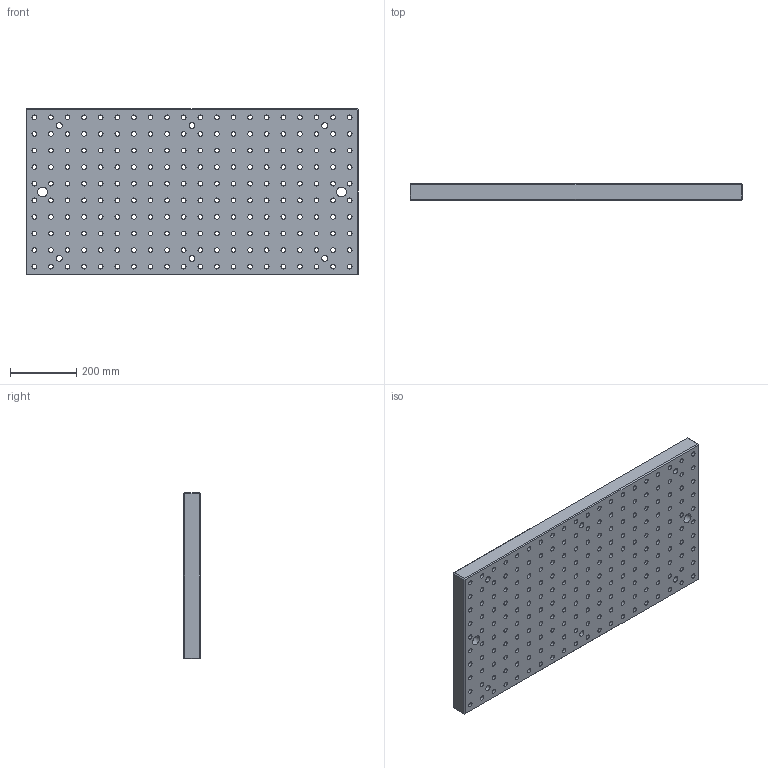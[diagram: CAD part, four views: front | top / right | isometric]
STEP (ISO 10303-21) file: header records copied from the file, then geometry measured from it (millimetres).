
FILE_DESCRIPTION((''),'2;1');
FILE_NAME('FG_WH_BASPL_RCG16NP005','2026-05-19T09:35:56',('Admin'),(''),'CREO PARAMETRIC BY PTC INC, 2025010','CREO PARAMETRIC BY PTC INC, 2025010','');
FILE_SCHEMA(('CONFIG_CONTROL_DESIGN'));
Length unit declared in the file: millimetre
Products named in the file (1): FG_WH_BASPL_RCG16NP005
Bounding box: 1000 x 50 x 500 mm (x, y, z)
Volume: 23096514.1 mm3; surface area: 1908978.7 mm2
Topology: 1 solids, 201 shells, 1664 faces, 4148 edges, 2892 vertices
Faces by surface type: cylinder 1228, plane 432, cone 4
Entity records: 52091 total; most frequent: DIRECTION 10338, CARTESIAN_POINT 8705, ORIENTED_EDGE 7496, AXIS2_PLACEMENT_3D 4525, EDGE_CURVE 4148, VERTEX_POINT 2892, CIRCLE 2860, EDGE_LOOP 2486
